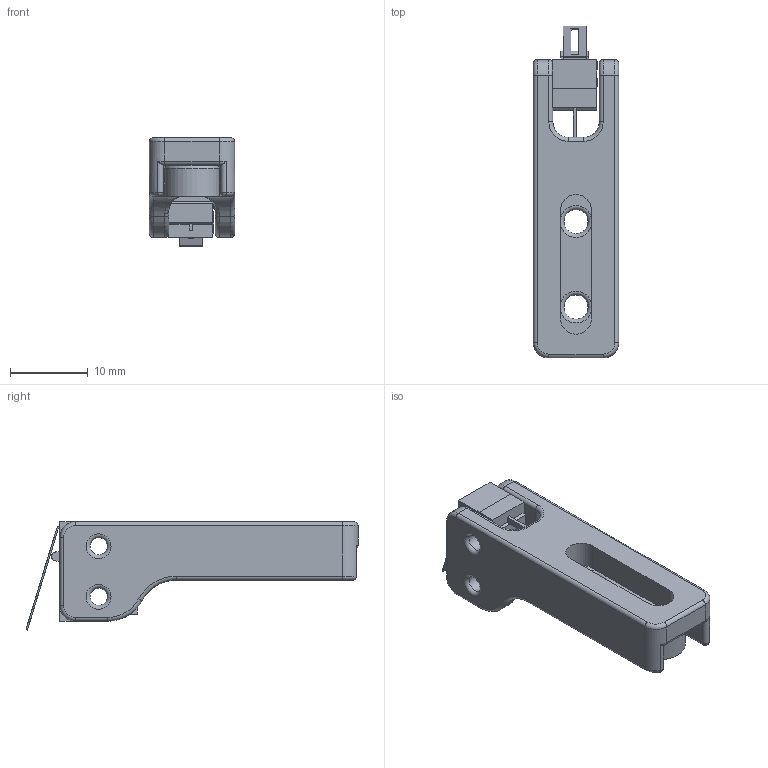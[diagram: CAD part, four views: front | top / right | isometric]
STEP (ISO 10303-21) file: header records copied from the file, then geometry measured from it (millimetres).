
FILE_DESCRIPTION(/* description */ (''),/* implementation_level */ '2;1');
FILE_NAME(/* name */ 'K4CG_Door_Sensor.step',/* time_stamp */ '2024-03-07T19:45:51+01:00',/* author */ (''),/* organization */ (''),/* preprocessor_version */ 'ST-DEVELOPER v20',/* originating_system */ 'Autodesk Translation Framework v12.20.1.177',/* authorisation */ '');
FILE_SCHEMA (('AUTOMOTIVE_DESIGN { 1 0 10303 214 3 1 1 }'));
Length unit declared in the file: millimetre
Products named in the file (7): K4CG_Door_Sensor; Micro limit switch v1; PINS___ _________; High_Part___ _________; Button___ _________; Plate; K4CG_Door_Sensor_Holder
Assembly tree (6 placements, depth 3):
  K4CG_Door_Sensor
    Micro limit switch v1
      PINS___ _________
      High_Part___ _________
      Button___ _________
      Plate
    K4CG_Door_Sensor_Holder
Bounding box: 11 x 42.76 x 13.95 mm (x, y, z)
Volume: 2840.6 mm3; surface area: 3337.3 mm2
Topology: 6 solids, 6 shells, 471 faces, 1201 edges, 772 vertices
Faces by surface type: plane 253, bspline 101, cylinder 79, torus 34, sphere 4
Full cylindrical faces by diameter (mm): 1 x2, 2.2 x6, 3.1 x2
Entity records: 19622 total; most frequent: CARTESIAN_POINT 8537, ORIENTED_EDGE 2398, DIRECTION 1971, EDGE_CURVE 1199, LINE 785, VECTOR 785, VERTEX_POINT 772, AXIS2_PLACEMENT_3D 593
